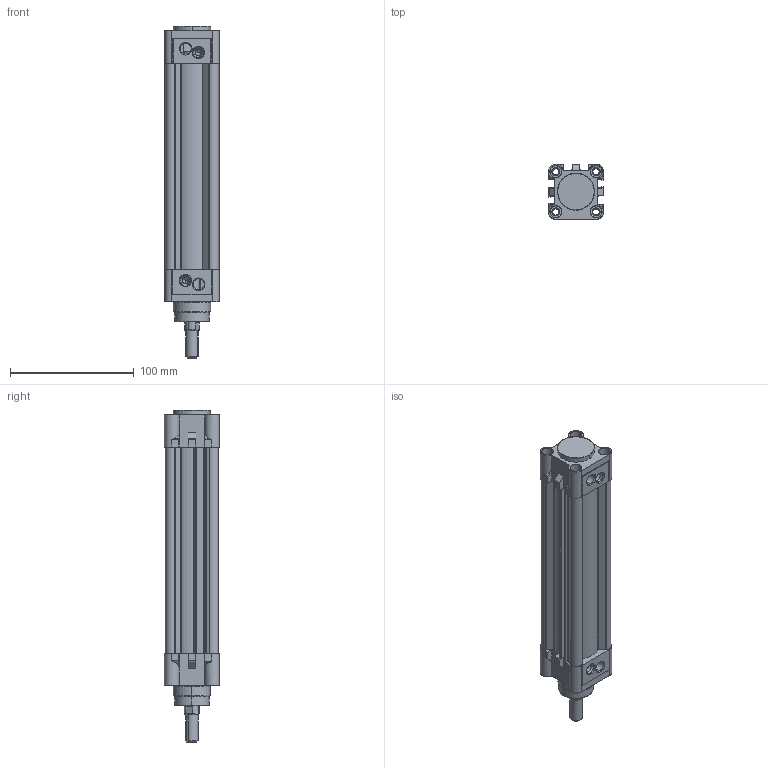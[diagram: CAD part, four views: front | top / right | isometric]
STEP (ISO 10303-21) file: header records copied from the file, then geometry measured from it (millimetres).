
FILE_DESCRIPTION (( 'STEP AP203' ), '1' );
FILE_NAME ('KDNT32X125CYLINDER.STEP', '2015-03-06T11:21:57', ( 'user' ), ( '' ), 'SwSTEP 2.0', 'SolidWorks 2013', '' );
FILE_SCHEMA (( 'CONFIG_CONTROL_DESIGN' ));
Length unit declared in the file: millimetre
Products named in the file (6): ARKA KAPAK; 烰 KAPAK; ORTA PÝSTON; KDNT Piston Mili 32X125; KDNT 32x125 BORU; KDNT32X125CYLINDER
Assembly tree (5 placements, depth 2):
  KDNT32X125CYLINDER
    ARKA KAPAK
    烰 KAPAK
    ORTA PÝSTON
    KDNT Piston Mili 32X125
    KDNT 32x125 BORU
Bounding box: 44.45 x 44.65 x 268.5 mm (x, y, z)
Volume: 205519.6 mm3; surface area: 112617.6 mm2
Topology: 6 solids, 7 shells, 701 faces, 1763 edges, 1111 vertices
Faces by surface type: cylinder 259, plane 185, cone 135, bspline 122
Entity records: 30127 total; most frequent: CARTESIAN_POINT 13635, ORIENTED_EDGE 3494, DIRECTION 3078, EDGE_CURVE 1747, AXIS2_PLACEMENT_3D 1184, VERTEX_POINT 1111, EDGE_LOOP 794, LINE 710
